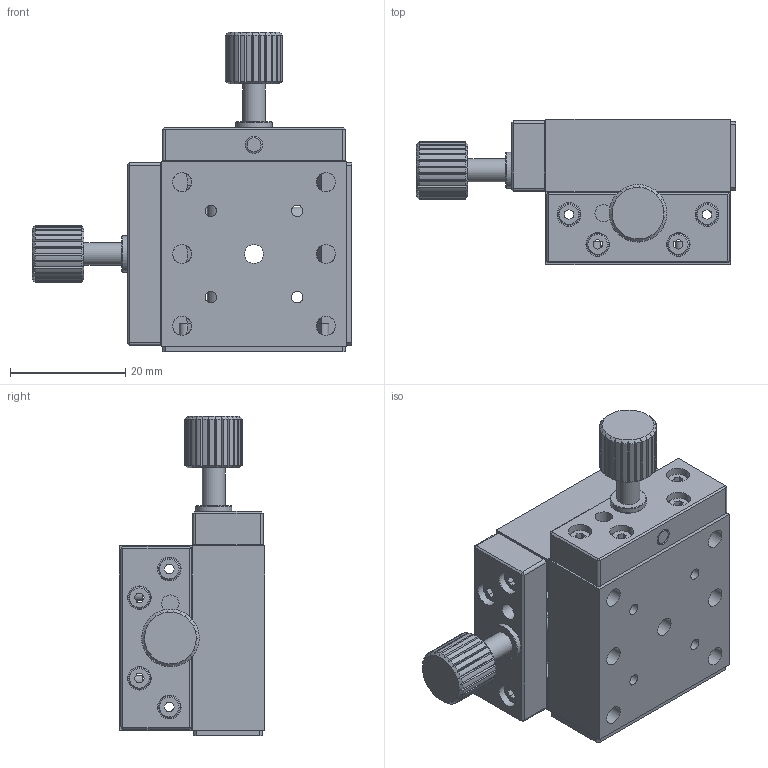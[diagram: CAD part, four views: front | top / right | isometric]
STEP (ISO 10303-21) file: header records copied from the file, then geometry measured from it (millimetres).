
FILE_DESCRIPTION (( 'STEP AP203' ), '1' );
FILE_NAME ('TCV32-XY.step', '2017-01-10T09:18:50', ( '¦K¬P' ), ( '' ), 'SwSTEP 2.0', 'SolidWorks 2012', '' );
FILE_SCHEMA (( 'CONFIG_CONTROL_DESIGN' ));
Length unit declared in the file: millimetre
Products named in the file (1): TCV32-XY
Bounding box: 55.57 x 25.3 x 55.57 mm (x, y, z)
Surface area: 13374.5 mm2 (no closed solid volume)
Topology: 0 solids, 24 shells, 392 faces, 1174 edges, 788 vertices
Faces by surface type: plane 242, cylinder 108, cone 40, sphere 2
Full cylindrical faces by diameter (mm): 2 x16, 3 x4, 3.3 x14, 4 x2, 4.1 x8, 4.6 x2, 6.3 x2
Entity records: 13008 total; most frequent: CARTESIAN_POINT 3029, DIRECTION 1950, ORIENTED_EDGE 1892, EDGE_CURVE 1074, VERTEX_POINT 762, AXIS2_PLACEMENT_3D 699, LINE 552, VECTOR 552
